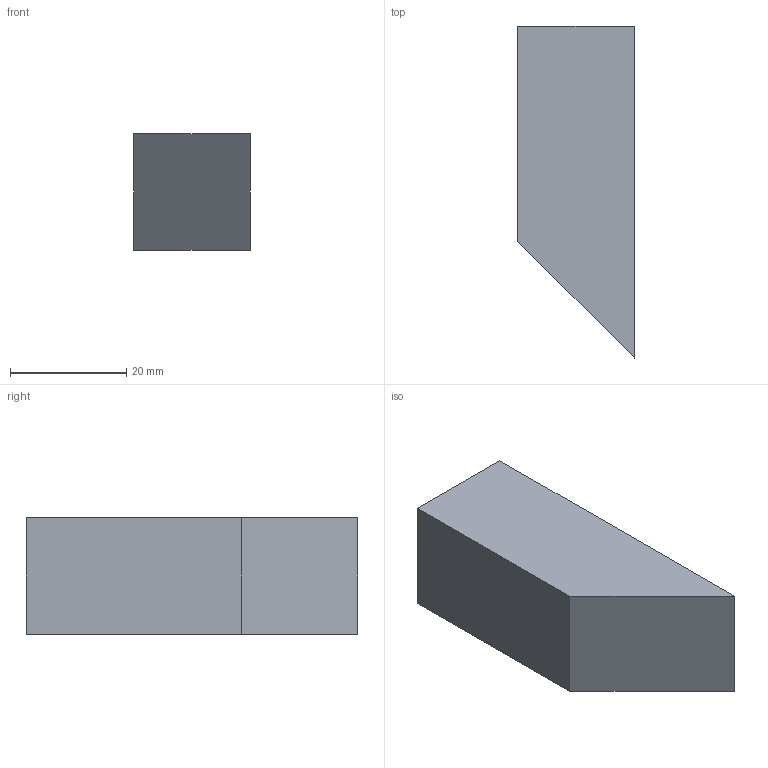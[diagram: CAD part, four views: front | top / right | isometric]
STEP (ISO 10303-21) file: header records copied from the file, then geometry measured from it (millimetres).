
FILE_DESCRIPTION(/* description */ (''),/* implementation_level */ '2;1');
FILE_NAME(/* name */ '10.optics-laser#10.1#HFS5-2020-57-LAT45',/* time_stamp */ '2014-12-01T20:18:56+01:00',/* author */ (''),/* organization */ (''),/* preprocessor_version */ 'ST-DEVELOPER v14',/* originating_system */ '',/* authorisation */ '');
FILE_SCHEMA (('AUTOMOTIVE_DESIGN'));
Length unit declared in the file: millimetre
Products named in the file (1): Document
Bounding box: 20 x 57 x 20 mm (x, y, z)
Volume: 18800 mm3; surface area: 4725.7 mm2
Topology: 1 solids, 1 shells, 6 faces, 12 edges, 8 vertices
Faces by surface type: plane 6
Entity records: 304 total; most frequent: CARTESIAN_POINT 94, B_SPLINE_CURVE_WITH_KNOTS 36, ORIENTED_EDGE 24, PCURVE 24, DEFINITIONAL_REPRESENTATION 24, SURFACE_CURVE 12, EDGE_CURVE 12, DIRECTION 10
